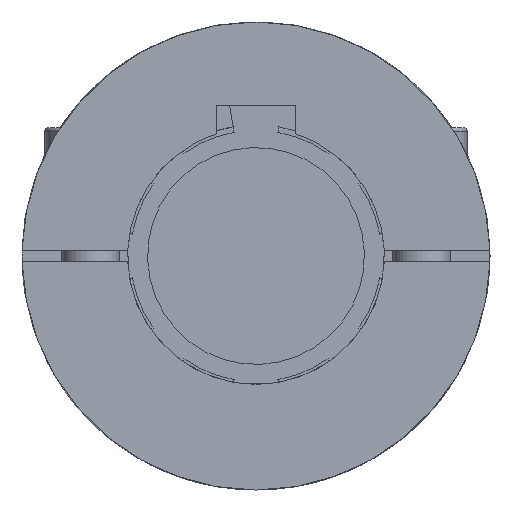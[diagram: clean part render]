
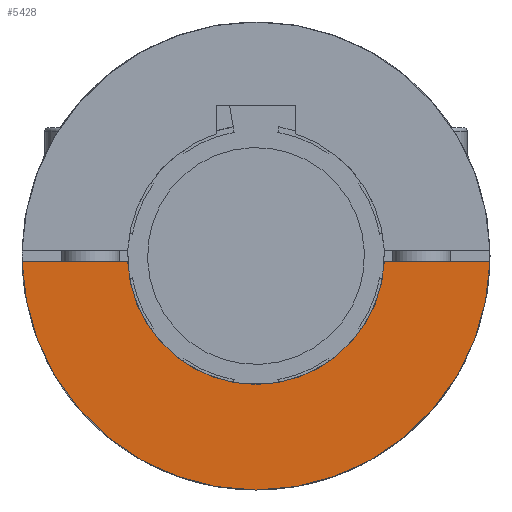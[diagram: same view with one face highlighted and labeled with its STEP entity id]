
A CAD part, left-side view. The second image highlights one B-rep face of the part: STEP entity #5428.
In plain terms, the highlighted planar face has unit normal (-1, 0, 0).
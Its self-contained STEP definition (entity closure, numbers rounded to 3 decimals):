
#250=PLANE('',#5958);
#514=FACE_OUTER_BOUND('',#826,.T.);
#826=EDGE_LOOP('',(#5030,#5031,#5032,#5033));
#1197=LINE('',#11577,#1741);
#1369=LINE('',#12048,#1913);
#1741=VECTOR('',#7033,31.541);
#1913=VECTOR('',#7501,31.541);
#1927=CIRCLE('',#5465,22.5);
#2092=CIRCLE('',#5809,41.);
#2171=VERTEX_POINT('',#7539);
#2172=VERTEX_POINT('',#7540);
#2534=VERTEX_POINT('',#11571);
#2535=VERTEX_POINT('',#11573);
#2694=EDGE_CURVE('',#2171,#2172,#1927,.T.);
#3229=EDGE_CURVE('',#2535,#2534,#2092,.T.);
#3231=EDGE_CURVE('',#2535,#2172,#1197,.T.);
#3479=EDGE_CURVE('',#2171,#2534,#1369,.T.);
#5030=ORIENTED_EDGE('',*,*,#2694,.T.);
#5031=ORIENTED_EDGE('',*,*,#3231,.F.);
#5032=ORIENTED_EDGE('',*,*,#3229,.T.);
#5033=ORIENTED_EDGE('',*,*,#3479,.F.);
#5428=ADVANCED_FACE('',(#514),#250,.F.);
#5465=AXIS2_PLACEMENT_3D('',#7541,#5982,#5983);
#5809=AXIS2_PLACEMENT_3D('',#11574,#7028,#7029);
#5958=AXIS2_PLACEMENT_3D('',#12047,#7499,#7500);
#5982=DIRECTION('center_axis',(1.,0.,0.));
#5983=DIRECTION('ref_axis',(0.,0.,1.));
#7028=DIRECTION('center_axis',(-1.,0.,0.));
#7029=DIRECTION('ref_axis',(0.,1.,-0.024));
#7033=DIRECTION('',(0.,-1.,0.));
#7499=DIRECTION('center_axis',(1.,0.,0.));
#7500=DIRECTION('ref_axis',(0.,0.,-1.));
#7501=DIRECTION('',(0.,-1.,0.));
#7539=CARTESIAN_POINT('',(0.,-22.478,-1.));
#7540=CARTESIAN_POINT('',(0.,22.478,-1.));
#7541=CARTESIAN_POINT('Origin',(0.,0.,0.));
#11571=CARTESIAN_POINT('',(0.,-40.988,-1.));
#11573=CARTESIAN_POINT('',(0.,40.988,-1.));
#11574=CARTESIAN_POINT('Origin',(0.,0.,0.));
#11577=CARTESIAN_POINT('',(0.,40.988,-1.));
#12047=CARTESIAN_POINT('Origin',(0.,0.,41.));
#12048=CARTESIAN_POINT('',(0.,-9.447,-1.));
